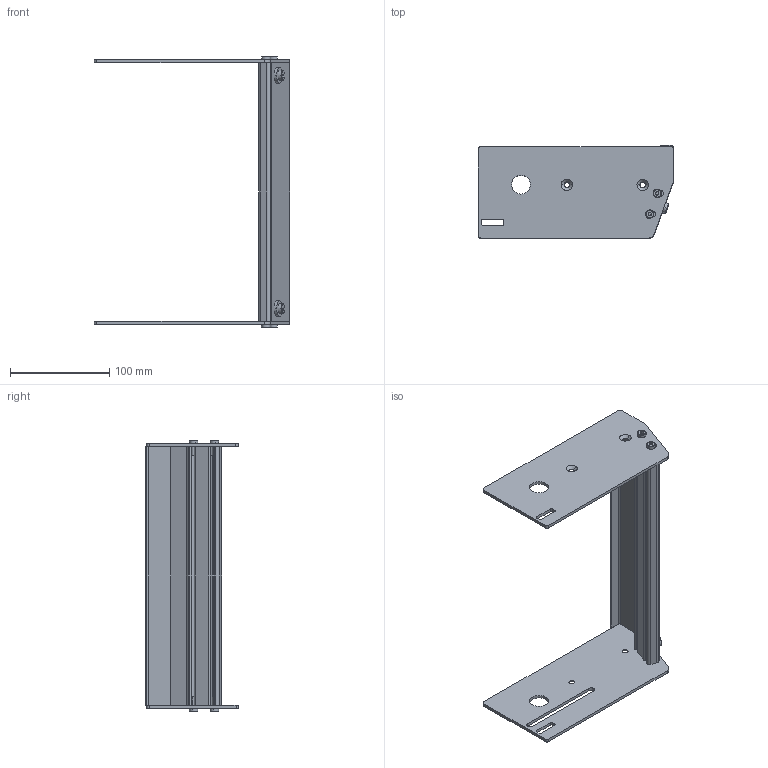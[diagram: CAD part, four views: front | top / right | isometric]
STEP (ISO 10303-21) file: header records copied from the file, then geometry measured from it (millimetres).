
FILE_DESCRIPTION((''),'2;1');
FILE_NAME('351199-10_ASM','2023-03-15T',('jenni.wallner'),(''),'PRO/ENGINEER BY PARAMETRIC TECHNOLOGY CORPORATION, 2012420','PRO/ENGINEER BY PARAMETRIC TECHNOLOGY CORPORATION, 2012420','');
FILE_SCHEMA(('CONFIG_CONTROL_DESIGN'));
Length unit declared in the file: inch
Products named in the file (10): 9506XXM_950612M; 605279P; 9505XXM_950512M; 351200_DEFAULT_AS_MACHINED_; 351203-WW_351203-10; 990603M; 351201; 351202-WW_351202-10; ASM0001_ASM; 351199-10_ASM
Assembly tree (15 placements, depth 3):
  351199-10_ASM
    ASM0001_ASM
      9506XXM_950612M  x2
      605279P  x2
      9505XXM_950512M  x4
      351200_DEFAULT_AS_MACHINED_
      351203-WW_351203-10
      990603M  x2
      351201
      351202-WW_351202-10
Bounding box: 196.11 x 93.08 x 273.09 mm (x, y, z)
Volume: 207079.5 mm3; surface area: 162346.4 mm2
Topology: 14 solids, 14 shells, 337 faces, 809 edges, 512 vertices
Faces by surface type: plane 150, cylinder 119, cone 68
Entity records: 7474 total; most frequent: CARTESIAN_POINT 1362, DIRECTION 1336, ORIENTED_EDGE 1172, EDGE_CURVE 586, AXIS2_PLACEMENT_3D 501, VERTEX_POINT 380, VECTOR 334, LINE 334
